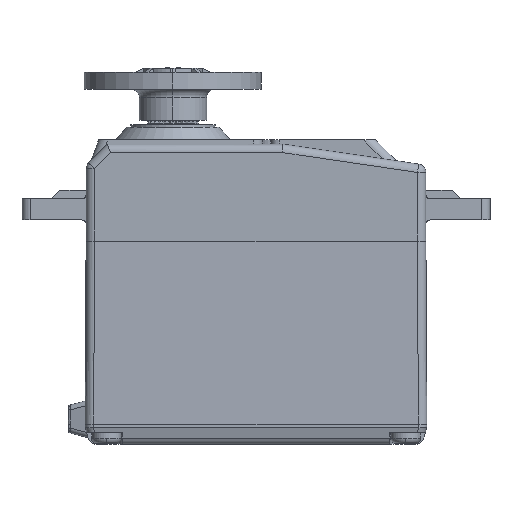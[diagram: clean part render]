
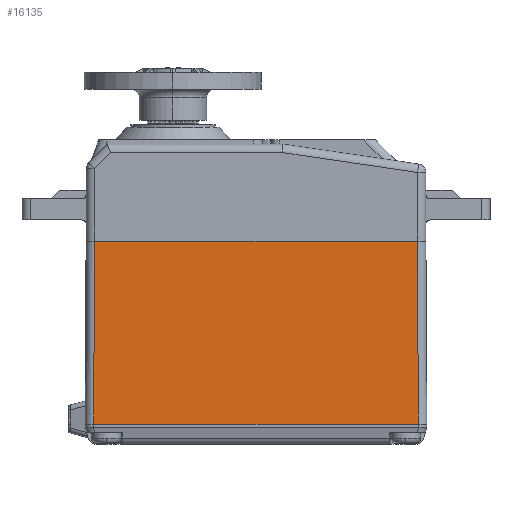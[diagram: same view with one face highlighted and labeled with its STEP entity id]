
A CAD part, left-side view. The second image highlights one B-rep face of the part: STEP entity #16135.
In plain terms, the highlighted planar face has unit normal (-1, 0, 0.005) as drawn and (0, 1, 0.005) by its records, which use the part's own axes.
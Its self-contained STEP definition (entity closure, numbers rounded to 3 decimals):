
#136 = ORIENTED_EDGE ( 'NONE', *, *, #3502, .F. ) ;
#509 = VECTOR ( 'NONE', #1560, 1000. ) ;
#1097 = EDGE_CURVE ( 'NONE', #16149, #6246, #3648, .T. ) ;
#1560 = DIRECTION ( 'NONE',  ( -0.005, 0.005, -1. ) ) ;
#1696 = LINE ( 'NONE', #3142, #15087 ) ;
#3009 = DIRECTION ( 'NONE',  ( 1., 0., 0. ) ) ;
#3142 = CARTESIAN_POINT ( 'NONE',  ( -2.261, 44.528, 0. ) ) ;
#3143 = CARTESIAN_POINT ( 'NONE',  ( 37.239, 44.628, -21.7 ) ) ;
#3502 = EDGE_CURVE ( 'NONE', #17029, #16149, #1696, .T. ) ;
#3648 = LINE ( 'NONE', #9137, #509 ) ;
#4712 = VECTOR ( 'NONE', #3009, 1000. ) ;
#4856 = DIRECTION ( 'NONE',  ( 0., 0.005, -1. ) ) ;
#5265 = ORIENTED_EDGE ( 'NONE', *, *, #17072, .F. ) ;
#5430 = CARTESIAN_POINT ( 'NONE',  ( -1.261, 44.628, -21.7 ) ) ;
#5832 = DIRECTION ( 'NONE',  ( -1., 0., 0. ) ) ;
#6246 = VERTEX_POINT ( 'NONE', #5430 ) ;
#6912 = DIRECTION ( 'NONE',  ( -0.005, -0.005, 1. ) ) ;
#7140 = ORIENTED_EDGE ( 'NONE', *, *, #1097, .F. ) ;
#8162 = EDGE_CURVE ( 'NONE', #12109, #17029, #13818, .T. ) ;
#8183 = AXIS2_PLACEMENT_3D ( 'NONE', #14190, #15897, #4856 ) ;
#8190 = CARTESIAN_POINT ( 'NONE',  ( 37.239, 44.628, -21.7 ) ) ;
#8912 = FACE_OUTER_BOUND ( 'NONE', #10328, .T. ) ;
#9137 = CARTESIAN_POINT ( 'NONE',  ( -1.161, 44.528, 0. ) ) ;
#9840 = LINE ( 'NONE', #12618, #4712 ) ;
#9892 = VECTOR ( 'NONE', #6912, 1000. ) ;
#10328 = EDGE_LOOP ( 'NONE', ( #136, #17382, #5265, #7140 ) ) ;
#12109 = VERTEX_POINT ( 'NONE', #8190 ) ;
#12530 = CARTESIAN_POINT ( 'NONE',  ( 37.139, 44.528, 0. ) ) ;
#12618 = CARTESIAN_POINT ( 'NONE',  ( -2.261, 44.628, -21.7 ) ) ;
#13818 = LINE ( 'NONE', #3143, #9892 ) ;
#14190 = CARTESIAN_POINT ( 'NONE',  ( -2.261, 44.628, -21.7 ) ) ;
#14372 = CARTESIAN_POINT ( 'NONE',  ( -1.161, 44.528, 0. ) ) ;
#15087 = VECTOR ( 'NONE', #5832, 1000. ) ;
#15897 = DIRECTION ( 'NONE',  ( 0., -1., -0.005 ) ) ;
#16135 = ADVANCED_FACE ( 'NONE', ( #8912 ), #17148, .F. ) ;
#16149 = VERTEX_POINT ( 'NONE', #14372 ) ;
#17029 = VERTEX_POINT ( 'NONE', #12530 ) ;
#17072 = EDGE_CURVE ( 'NONE', #6246, #12109, #9840, .T. ) ;
#17148 = PLANE ( 'NONE',  #8183 ) ;
#17382 = ORIENTED_EDGE ( 'NONE', *, *, #8162, .F. ) ;
